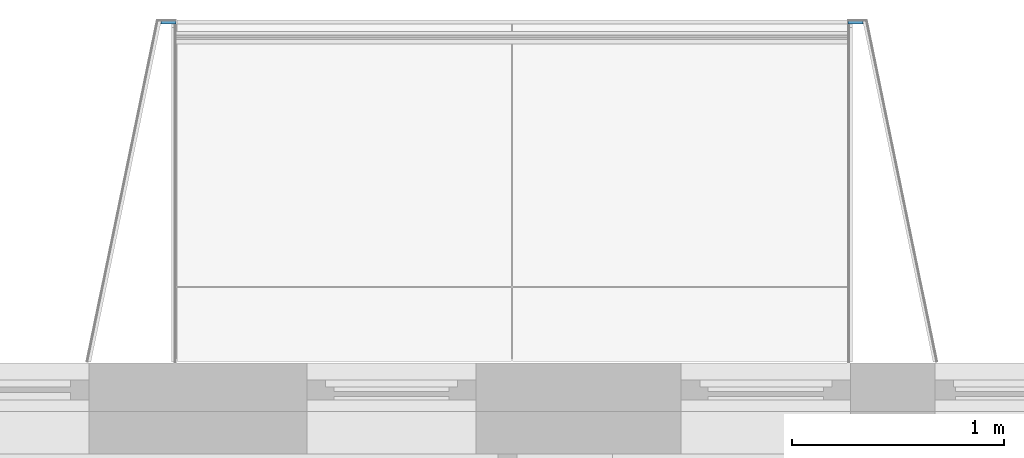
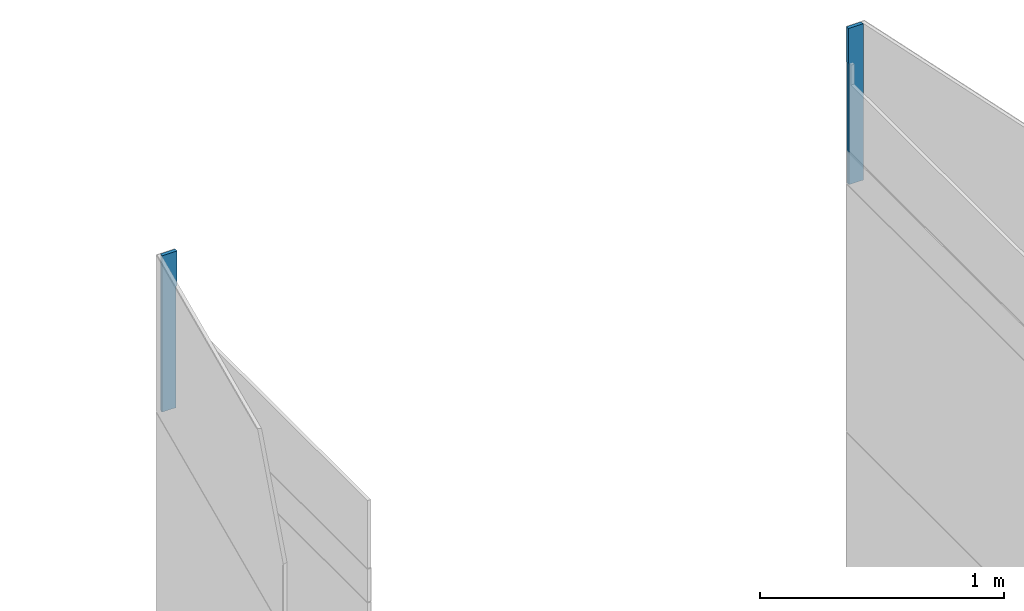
# One storey, part 43 of 125: 2 building element parts, 2 elements without a shape of their own.
"""IFC2X3 building model written with IfcOpenShell, lengths in millimetres."""

from ifc_helpers import new_model, entity, si_unit, converted_unit, direction, frame, origin, place, context, subcontext, project, spatial, faceted_brep, material, type_object, element, aggregate, save


model = new_model("IFC2X3")

# Units and contexts
model_context = context("Model", 3, precision=0.01, world=origin(), true_north=direction((6.123233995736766e-17, 1.0)))
plan_context = context("Plan", 3, precision=0.01, world=origin(), true_north=direction((6.123233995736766e-17, 1.0)))
body_context = subcontext(model_context, "Body", "Model", "MODEL_VIEW")
ifc_project = project(units=[si_unit("LENGTHUNIT", "METRE", prefix="MILLI"), converted_unit("PLANEANGLEUNIT", "DEGREE", entity("IfcPlaneAngleMeasure", 0.017453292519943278), si_unit("PLANEANGLEUNIT", "RADIAN"), dimensions=[0, 0, 0, 0, 0, 0, 0]), si_unit("AREAUNIT", "SQUARE_METRE")], contexts=[model_context, plan_context])

# Site, building, storey
site_placement = place(None, origin())
site = spatial("IfcSite", under=ifc_project, at=site_placement, Name="Default", CompositionType="ELEMENT")
building_placement = place(site_placement, origin())
building = spatial("IfcBuilding", under=site, at=building_placement, CompositionType="ELEMENT")
storey_placement = place(building_placement, frame((0.0, 0.0, 3125.0)))
storey = spatial("IfcBuildingStorey", under=building, at=storey_placement, Name="2K", CompositionType="ELEMENT", Elevation=3125.0)

# Wall, building element part
wall_type = type_object("IfcWallType", Name="Basic Wall:VS-komposiit", PredefinedType="STANDARD")
wall_1_placement = place(storey_placement, frame((4963.640832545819, 17442.0, -1010.0)))
wall_1 = element("IfcWall", 1, at=wall_1_placement, inside=storey, type_object=wall_type, Name="Basic Wall:VS-komposiit", ObjectType="Basic Wall:VS-komposiit")
ifc_material = material(Name="_K. Õhk. Roov. Fassaadikatte alusroov. Horisontaalne. 25 mm")
building_element_part_1_placement = place(wall_1_placement, frame((0.0, -10.0, 12927.499999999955)))
building_element_part_1 = element("IfcBuildingElementPart", 2, at=building_element_part_1_placement, material=ifc_material, Name="Part", context=body_context, shape_type="Brep", body=[
    faceted_brep([(3.2997333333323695, 16.0, 0.0), (67.77575589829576, 16.0, 0.0), (67.77575589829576, 0.0, 0.0), (0.0, 0.0, 0.0), (3.2997333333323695, 16.0, 607.5000000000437), (3.299733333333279, 16.0, 783.4702884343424), (71.77575589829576, 16.0, 783.470288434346), (71.77575589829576, 16.0, 607.5000000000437), (67.77575589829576, 16.0, 607.5000000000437), (67.77575589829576, 0.0, 607.5000000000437), (71.77575589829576, 0.0, 607.5000000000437), (71.77575589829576, 0.0, 783.4702884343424), (0.0, 0.0, 783.4702884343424), (0.0, 0.0, 607.5000000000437)], [[[0, 1, 2, 3]], [[4, 5, 6, 7, 8, 1, 0]], [[9, 10, 11, 12, 13, 3, 2]], [[5, 4, 0, 3, 13, 12]], [[8, 9, 2, 1]], [[8, 7, 10, 9]], [[6, 5, 12, 11]], [[7, 6, 11, 10]]]),
])
aggregate(wall_1, [building_element_part_1])

wall_2_placement = place(storey_placement, frame((8286.775755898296, 17442.0, -1010.0), z_axis=(0.0, 0.0, 1.0), x_axis=(-1.0, 0.0, 0.0)))
wall_2 = element("IfcWall", 3, at=wall_2_placement, inside=storey, type_object=wall_type, Name="Basic Wall:VS-komposiit", ObjectType="Basic Wall:VS-komposiit")
building_element_part_2_placement = place(wall_2_placement, frame((71.77575589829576, 10.0, 12927.499999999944)))
building_element_part_2 = element("IfcBuildingElementPart", 4, at=building_element_part_2_placement, material=ifc_material, Name="Part", context=body_context, shape_type="Brep", body=[
    faceted_brep([(-4.0, -16.0, 0.0), (-68.47602256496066, -16.0, 0.0), (-71.77575589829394, 0.0, 0.0), (-4.0, 0.0, 0.0), (-4.0, -16.0, 607.5000000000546), (0.0, -16.0, 607.5000000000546), (0.0, -16.0, 783.5000000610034), (-68.47602256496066, -16.0, 783.5000000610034), (-68.47602256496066, -16.0, 607.5000000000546), (-71.77575589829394, 0.0, 607.5000000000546), (-71.77575589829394, 0.0, 783.5000000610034), (0.0, 0.0, 783.5000000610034), (0.0, 0.0, 607.5000000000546), (-4.0, 0.0, 607.5000000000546)], [[[0, 1, 2, 3]], [[4, 5, 6, 7, 8, 1, 0]], [[9, 10, 11, 12, 13, 3, 2]], [[8, 7, 10, 9, 2, 1]], [[13, 4, 0, 3]], [[5, 4, 13, 12]], [[6, 5, 12, 11]], [[7, 6, 11, 10]]]),
])
aggregate(wall_2, [building_element_part_2])

save(model, "model.ifc")
